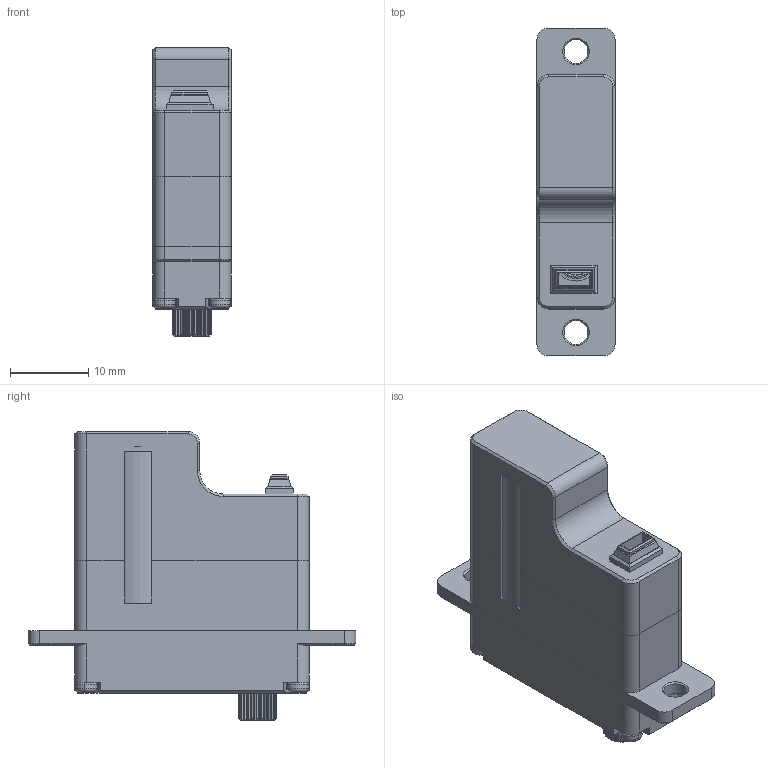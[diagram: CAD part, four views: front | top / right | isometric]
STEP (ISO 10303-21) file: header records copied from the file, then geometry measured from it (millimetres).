
FILE_DESCRIPTION (( 'STEP AP214' ), '1' );
FILE_NAME ('X10 Pro-B_DM_20230717.STEP', '2023-07-25T08:34:23', ( '' ), ( '' ), 'SwSTEP 2.0', 'SolidWorks 2016', '' );
FILE_SCHEMA (( 'AUTOMOTIVE_DESIGN' ));
Length unit declared in the file: millimetre
Products named in the file (1): X10 Pro-B_DM_20230717
Bounding box: 10 x 42 x 37 mm (x, y, z)
Surface area: 4186.3 mm2 (no closed solid volume)
Topology: 0 solids, 11 shells, 380 faces, 1050 edges, 678 vertices
Faces by surface type: plane 202, cylinder 120, cone 42, torus 16
Entity records: 16503 total; most frequent: CARTESIAN_POINT 2669, DIRECTION 2022, ORIENTED_EDGE 1949, EDGE_CURVE 1050, AXIS2_PLACEMENT_3D 704, VERTEX_POINT 678, VECTOR 614, LINE 614
